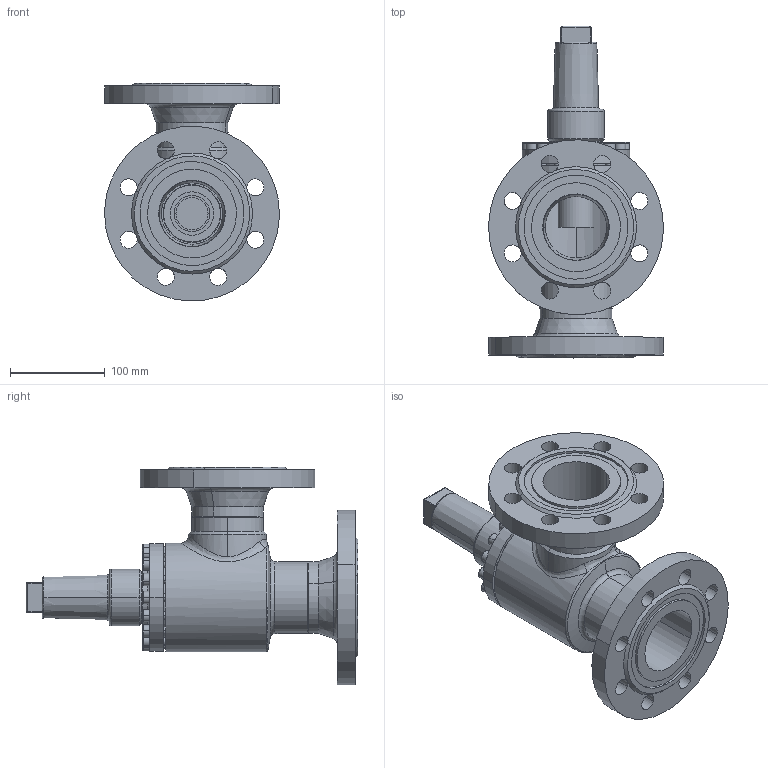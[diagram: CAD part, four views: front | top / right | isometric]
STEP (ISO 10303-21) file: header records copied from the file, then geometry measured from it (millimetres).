
FILE_DESCRIPTION (( 'STEP AP214' ), '1' );
FILE_NAME ('AVB16420D17-DN065_DIN-FL-N_PS40.STEP', '2006-04-27T12:29:49', ( 'Herr Grams' ), ( 'AWP GmbH' ), 'SwSTEP 2.0', 'SolidWorks 2002296', '' );
FILE_SCHEMA (( 'AUTOMOTIVE_DESIGN' ));
Length unit declared in the file: millimetre
Products named in the file (10): AVB16420D17-DN065_DIN-FL-N_PS40; AVB16300K17_Deck+Schr-DN65_Standard; Deckel16300K17-DN65_Standard; Zylinderschraube-DIN912_M 8x 25; Gehäuse-kpl16420-DN065_DIN_PS40_Standard; Gehäuse16400-DN065_Standard; bead-DN065-4_Standard; bead-DN065-3_Standard; Flansch-DIN-Nut_PS40_DIN-Flansch-DN065_PS40-Nut; Kappe16402_DN040-65_Standard
Assembly tree (25 placements, depth 3):
  AVB16420D17-DN065_DIN-FL-N_PS40
    Gehäuse-kpl16420-DN065_DIN_PS40_Standard
      bead-DN065-4_Standard
      Flansch-DIN-Nut_PS40_DIN-Flansch-DN065_PS40-Nut  x2
      Gehäuse16400-DN065_Standard
      bead-DN065-3_Standard
    Kappe16402_DN040-65_Standard
    AVB16300K17_Deck+Schr-DN65_Standard
      Zylinderschraube-DIN912_M 8x 25  x16
      Deckel16300K17-DN65_Standard
Bounding box: 184.82 x 351 x 230.41 mm (x, y, z)
Volume: 1827898 mm3; surface area: 380395.6 mm2
Topology: 23 solids, 23 shells, 540 faces, 1248 edges, 794 vertices
Faces by surface type: cylinder 210, plane 209, cone 60, torus 51, bspline 10
Entity records: 18988 total; most frequent: CARTESIAN_POINT 12533, DIRECTION 1298, ORIENTED_EDGE 1128, EDGE_CURVE 564, AXIS2_PLACEMENT_3D 558, VERTEX_POINT 360, CIRCLE 306, EDGE_LOOP 304
